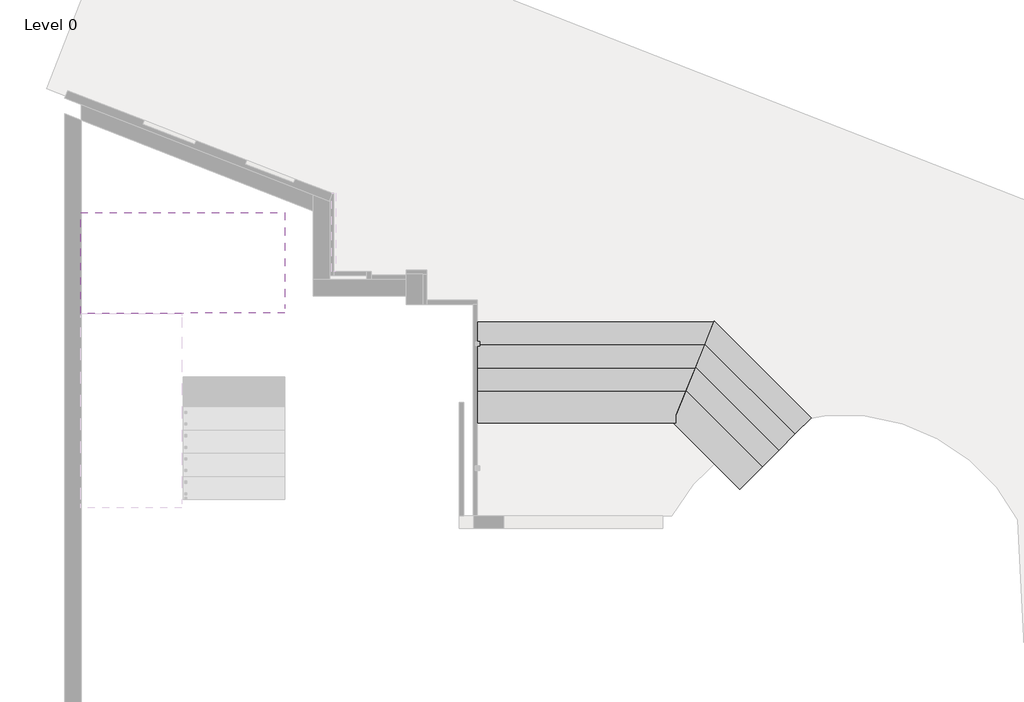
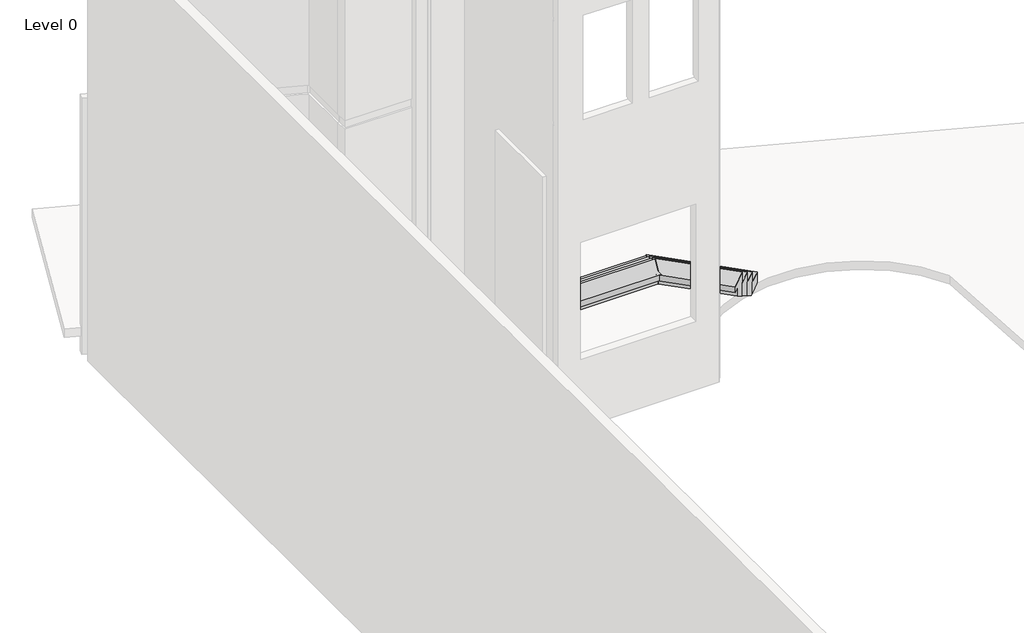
# One storey, part 6 of 6: 2 stair flights, 1 slab.
"""IFC4 building model written with IfcOpenShell, lengths in millimetres."""

from ifc_helpers import new_model, si_unit, origin, place, context, project, spatial, faceted_brep, element, save

model = new_model("IFC4")

# Units and contexts
model_context = context("Model", 3, world=origin())
ifc_project = project(units=[si_unit("LENGTHUNIT", "METRE", prefix="MILLI")], contexts=[model_context])

# Site, building, storey
site = spatial("IfcSite", under=ifc_project)
building = spatial("IfcBuilding", under=site)
storey = spatial("IfcBuildingStorey", under=building, Name="Level 0", Elevation=0.0)

# Slab
placement = place(None, origin())
element("IfcSlab", 1, ObjectType="220mm Thickness", at=placement, inside=storey, context=model_context, shape_type="Brep", body=[
    faceted_brep([(2399.5765888, 13788.8506586, 2222.2222222), (-60.0290025, 13788.8506586, 2222.2222222), (-60.0290025, 12568.8506586, 2222.2222222), (1159.9709975, 12568.8506586, 2222.2222222), (1177.9890888, 12568.8506586, 2222.2222222), (1177.9890888, 12678.8506586, 2222.2222222), (2399.5765888, 12678.8506586, 2222.2222222), (2399.5765888, 13788.8506586, 2002.2222222), (2399.5765888, 12678.8506586, 2112.2222222), (2399.5765888, 12578.8506586, 2112.2222222), (2399.5765888, 12578.8506586, 2002.2222222), (-60.0290025, 13788.8506586, 2002.2222222), (-60.0290025, 12568.8506586, 2002.2222222), (1159.9709975, 12568.8506586, 2002.2222222), (1177.9890888, 12568.8506586, 2002.2222222), (1177.9890888, 12578.8506586, 2002.2222222), (1177.9890888, 12678.8506586, 2112.2222222), (1177.9890888, 12578.8506586, 2112.2222222)], [[[0, 1, 2, 3, 4, 5, 6]], [[7, 0, 6, 8, 9, 10]], [[1, 0, 7, 11]], [[2, 1, 11, 12]], [[3, 2, 12, 13]], [[3, 13, 14, 4]], [[11, 7, 10, 15, 14, 13, 12]], [[16, 17, 9, 8]], [[5, 16, 8, 6]], [[16, 5, 4, 14, 15, 17]], [[9, 17, 15, 10]]]),
])

# Stair flights
element("IfcStairFlight", 2, ObjectType="190mm Depth", at=placement, inside=storey, context=model_context, shape_type="Brep", body=[
    faceted_brep([(7449.4863887, 12189.6028627, 637.5), (7562.6137319, 12469.6028627, 637.5), (4720.156273, 12469.6028627, 637.5), (4720.156273, 12189.6028627, 637.5), (7449.4863887, 12189.6028627, 450.0), (7562.6137319, 12469.6028627, 450.0), (4720.156273, 12469.6028627, 450.0), (4720.156273, 12189.6028627, 450.0), (7424.6492144, 12128.128699, 450.0), (4720.156273, 12128.128699, 450.0), (7336.3590455, 11909.6028627, 596.3342654), (7223.2317022, 11629.6028627, 783.8342654), (7110.104359, 11349.6028627, 971.3342654), (4720.156273, 11349.6028627, 971.3342654), (4720.156273, 11629.6028627, 783.8342654), (4720.156273, 11909.6028627, 596.3342654), (4720.156273, 11249.6028627, 1100.0), (4720.156273, 11349.6028627, 1100.0), (7110.104359, 11349.6028627, 1100.0), (7110.104359, 11249.6028627, 1100.0), (7110.104359, 11249.6028627, 1200.0), (4720.156273, 11249.6028627, 1200.0), (7110.104359, 11349.6028627, 1200.0), (7336.3590455, 11909.6028627, 825.0), (7449.4863887, 12189.6028627, 825.0), (4720.156273, 12189.6028627, 825.0), (4720.156273, 11909.6028627, 825.0), (7223.2317022, 11629.6028627, 1012.5), (7336.3590455, 11909.6028627, 1012.5), (4720.156273, 11909.6028627, 1012.5), (4720.156273, 11629.6028627, 1012.5), (7223.2317022, 11629.6028627, 1200.0), (4720.156273, 11629.6028627, 1200.0)], [[[0, 1, 2, 3]], [[1, 0, 4, 5]], [[2, 1, 5, 6]], [[3, 2, 6, 7]], [[5, 4, 8, 9, 7, 6]], [[9, 8, 10, 11, 12, 13, 14, 15]], [[16, 17, 18, 19]], [[16, 19, 20, 21]], [[19, 18, 22, 20]], [[23, 24, 25, 26]], [[4, 0, 24, 23, 10, 8]], [[0, 3, 25, 24]], [[3, 7, 9, 15, 26, 25]], [[27, 28, 29, 30]], [[28, 27, 11, 10, 23]], [[23, 26, 29, 28]], [[30, 29, 26, 15, 14]], [[22, 31, 32, 21, 20]], [[31, 22, 18, 12, 11, 27]], [[27, 30, 32, 31]], [[21, 32, 30, 14, 13, 17, 16]], [[13, 12, 18, 17]]]),
])
element("IfcStairFlight", 3, ObjectType="190mm Depth", at=placement, inside=storey, context=model_context, shape_type="Brep", body=[
    faceted_brep([(8543.9448801, 11116.8043936, 637.5), (8741.9347789, 11314.7942924, 637.5), (7574.266292, 12482.4627793, 637.5), (7460.3181191, 12200.4311547, 637.5), (8543.9448801, 11116.8043936, 450.0), (8741.9347789, 11314.7942924, 450.0), (7574.266292, 12482.4627793, 450.0), (7460.3181191, 12200.4311547, 450.0), (8500.4760821, 11073.3355957, 450.0), (7435.3007312, 12138.5109466, 450.0), (8345.9549814, 10918.8144949, 596.3342654), (8147.9650827, 10720.8245962, 783.8342654), (7949.9751839, 10522.8346974, 971.3342654), (7118.4736005, 11354.3362808, 971.3342654), (7232.4217734, 11636.3679054, 783.8342654), (7346.3699462, 11918.3995301, 596.3342654), (7047.7629224, 11283.6256027, 1100.0), (7118.4736005, 11354.3362808, 1100.0), (7949.9751839, 10522.8346974, 1100.0), (7879.2645058, 10452.1240193, 1100.0), (7047.7629224, 11283.6256027, 1200.0), (7118.4736005, 11354.3362808, 1200.0), (7879.2645058, 10452.1240193, 1200.0), (8345.9549814, 10918.8144949, 825.0), (8543.9448801, 11116.8043936, 825.0), (7460.3181191, 12200.4311547, 825.0), (7346.3699462, 11918.3995301, 825.0), (8147.9650827, 10720.8245962, 1012.5), (8345.9549814, 10918.8144949, 1012.5), (7346.3699462, 11918.3995301, 1012.5), (7232.4217734, 11636.3679054, 1012.5), (8147.9650827, 10720.8245962, 1200.0), (7232.4217734, 11636.3679054, 1200.0)], [[[0, 1, 2, 3]], [[1, 0, 4, 5]], [[2, 1, 5, 6]], [[3, 2, 6, 7]], [[5, 4, 8, 9, 7, 6]], [[9, 8, 10, 11, 12, 13, 14, 15]], [[16, 17, 18, 19]], [[17, 16, 20, 21]], [[16, 19, 22, 20]], [[23, 24, 25, 26]], [[4, 0, 24, 23, 10, 8]], [[0, 3, 25, 24]], [[3, 7, 9, 15, 26, 25]], [[27, 28, 29, 30]], [[28, 27, 11, 10, 23]], [[23, 26, 29, 28]], [[30, 29, 26, 15, 14]], [[31, 32, 21, 20, 22]], [[31, 22, 19, 18, 12, 11, 27]], [[27, 30, 32, 31]], [[21, 32, 30, 14, 13, 17]], [[13, 12, 18, 17]]]),
])

save(model, "model.ifc")
